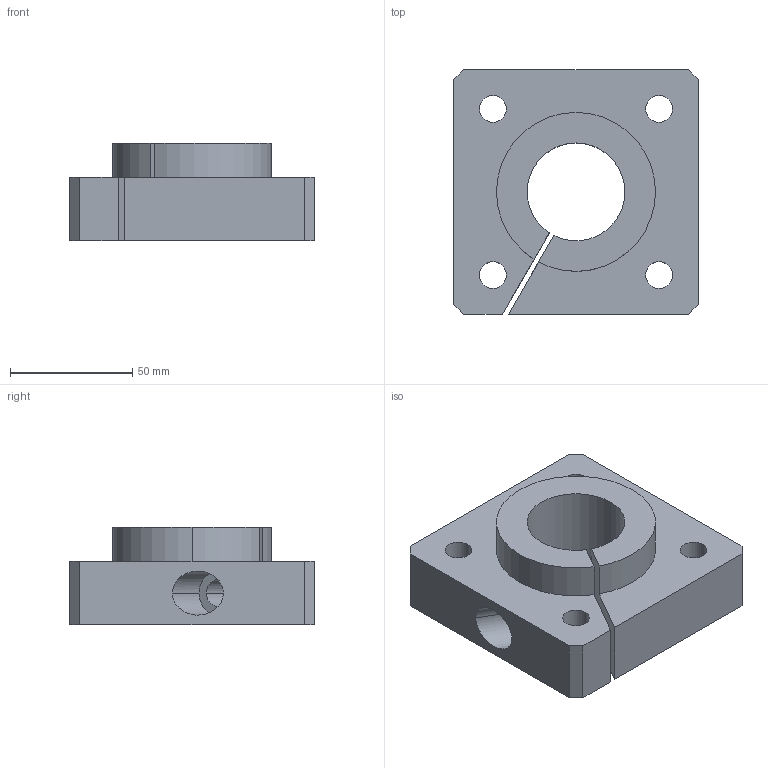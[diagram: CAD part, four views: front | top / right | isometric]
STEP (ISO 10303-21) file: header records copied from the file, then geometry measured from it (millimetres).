
FILE_DESCRIPTION (( 'STEP AP214' ), '1' );
FILE_NAME ('KFWB56-40.step', '2020-03-04T13:40:45', ( '' ), ( '' ), 'SwSTEP 2.0', 'SolidWorks 2019', '' );
FILE_SCHEMA (( 'AUTOMOTIVE_DESIGN' ));
Length unit declared in the file: millimetre
Products named in the file (1): KFWB56-40
Bounding box: 100 x 100 x 40 mm (x, y, z)
Volume: 234439.5 mm3; surface area: 42762 mm2
Topology: 1 solids, 1 shells, 37 faces, 100 edges, 65 vertices
Faces by surface type: cylinder 20, plane 15, cone 2
Entity records: 1238 total; most frequent: DIRECTION 210, CARTESIAN_POINT 207, ORIENTED_EDGE 196, EDGE_CURVE 98, AXIS2_PLACEMENT_3D 76, VERTEX_POINT 65, VECTOR 58, LINE 58
